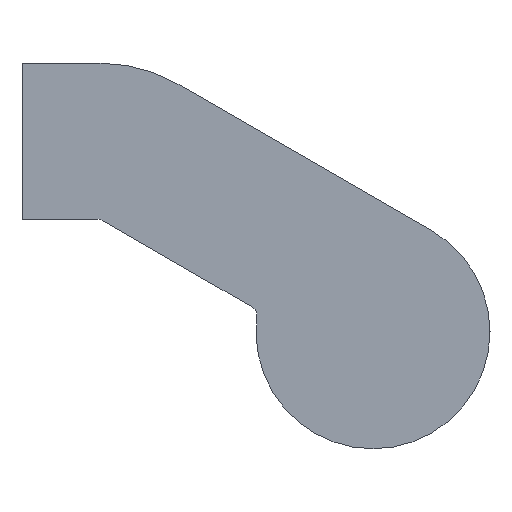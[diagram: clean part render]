
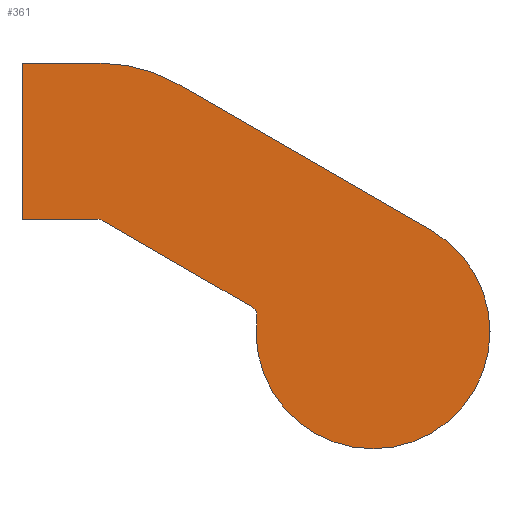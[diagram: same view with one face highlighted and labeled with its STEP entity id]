
A CAD part, left-side view. The second image highlights one B-rep face of the part: STEP entity #361.
In plain terms, the highlighted planar face has unit normal (-1, 0, 0).
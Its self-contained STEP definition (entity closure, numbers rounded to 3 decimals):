
#177 = EDGE_CURVE( '', #197, #431, #476, .T. );
#179 = EDGE_CURVE( '', #279, #291, #478, .T. );
#181 = VERTEX_POINT( '', #480 );
#197 = VERTEX_POINT( '', #498 );
#201 = EDGE_CURVE( '', #233, #197, #502, .T. );
#205 = EDGE_CURVE( '', #431, #181, #506, .T. );
#233 = VERTEX_POINT( '', #537 );
#237 = EDGE_CURVE( '', #181, #377, #542, .T. );
#271 = EDGE_CURVE( '', #349, #281, #580, .T. );
#279 = VERTEX_POINT( '', #589 );
#281 = VERTEX_POINT( '', #591 );
#291 = VERTEX_POINT( '', #603 );
#323 = EDGE_CURVE( '', #281, #279, #639, .T. );
#349 = VERTEX_POINT( '', #667 );
#361 = ADVANCED_FACE( '', ( #679 ), #680, .F. );
#377 = VERTEX_POINT( '', #697 );
#381 = EDGE_CURVE( '', #377, #407, #701, .T. );
#407 = VERTEX_POINT( '', #730 );
#419 = EDGE_CURVE( '', #407, #349, #743, .T. );
#429 = EDGE_CURVE( '', #291, #233, #754, .T. );
#431 = VERTEX_POINT( '', #756 );
#476 = CIRCLE( '', #801, 6. );
#478 = CIRCLE( '', #804, 8. );
#480 = CARTESIAN_POINT( '', ( -255., -11.804, -8.506 ) );
#498 = CARTESIAN_POINT( '', ( -255., -15., -14.97 ) );
#502 = CIRCLE( '', #833, 6. );
#506 = CIRCLE( '', #840, 0.5 );
#537 = CARTESIAN_POINT( '', ( -255., -21., -4.577 ) );
#542 = LINE( '', #885, #886 );
#580 = LINE( '', #935, #936 );
#589 = CARTESIAN_POINT( '', ( -255., -4., 4. ) );
#591 = CARTESIAN_POINT( '', ( -255., 0., 4. ) );
#603 = CARTESIAN_POINT( '', ( -255., -8., 2.928 ) );
#639 = LINE( '', #1010, #1011 );
#667 = CARTESIAN_POINT( '', ( -255., 0., -4. ) );
#679 = FACE_OUTER_BOUND( '', #1065, .T. );
#680 = PLANE( '', #1066 );
#697 = CARTESIAN_POINT( '', ( -255., -4.116, -4.067 ) );
#701 = CIRCLE( '', #1097, 0.5 );
#730 = CARTESIAN_POINT( '', ( -255., -3.866, -4. ) );
#743 = LINE( '', #1154, #1155 );
#754 = LINE( '', #1170, #1171 );
#756 = CARTESIAN_POINT( '', ( -255., -12.05, -9.003 ) );
#801 = AXIS2_PLACEMENT_3D( '', #1214, #1215, #1216 );
#804 = AXIS2_PLACEMENT_3D( '', #1217, #1218, #1219 );
#833 = AXIS2_PLACEMENT_3D( '', #1243, #1244, #1245 );
#840 = AXIS2_PLACEMENT_3D( '', #1247, #1248, #1249 );
#885 = CARTESIAN_POINT( '', ( -255., -11.804, -8.506 ) );
#886 = VECTOR( '', #1296, 1. );
#935 = CARTESIAN_POINT( '', ( -255., 0., -4. ) );
#936 = VECTOR( '', #1340, 1. );
#1010 = CARTESIAN_POINT( '', ( -255., 0., 4. ) );
#1011 = VECTOR( '', #1425, 1. );
#1065 = EDGE_LOOP( '', ( #1460, #1461, #1462, #1463, #1464, #1465, #1466, #1467, #1468, #1469 ) );
#1066 = AXIS2_PLACEMENT_3D( '', #1470, #1471, #1472 );
#1097 = AXIS2_PLACEMENT_3D( '', #1491, #1492, #1493 );
#1154 = CARTESIAN_POINT( '', ( -255., -3.866, -4. ) );
#1155 = VECTOR( '', #1539, 1. );
#1170 = CARTESIAN_POINT( '', ( -255., -8., 2.928 ) );
#1171 = VECTOR( '', #1552, 1. );
#1214 = CARTESIAN_POINT( '', ( -255., -18., -9.774 ) );
#1215 = DIRECTION( '', ( 1., 0., 0. ) );
#1216 = DIRECTION( '', ( 0., -0.5, 0.866 ) );
#1217 = CARTESIAN_POINT( '', ( -255., -4., -4. ) );
#1218 = DIRECTION( '', ( 1., 0., 0. ) );
#1219 = DIRECTION( '', ( 0., 0., 1. ) );
#1243 = CARTESIAN_POINT( '', ( -255., -18., -9.774 ) );
#1244 = DIRECTION( '', ( 1., 0., 0. ) );
#1245 = DIRECTION( '', ( 0., -0.5, 0.866 ) );
#1247 = CARTESIAN_POINT( '', ( -255., -11.554, -8.939 ) );
#1248 = DIRECTION( '', ( -1., 0., 0. ) );
#1249 = DIRECTION( '', ( 0., -0.992, -0.128 ) );
#1296 = DIRECTION( '', ( 0., 0.866, 0.5 ) );
#1340 = DIRECTION( '', ( 0., 0., 1. ) );
#1425 = DIRECTION( '', ( 0., -1., 0. ) );
#1460 = ORIENTED_EDGE( '', *, *, #179, .F. );
#1461 = ORIENTED_EDGE( '', *, *, #323, .F. );
#1462 = ORIENTED_EDGE( '', *, *, #271, .F. );
#1463 = ORIENTED_EDGE( '', *, *, #419, .F. );
#1464 = ORIENTED_EDGE( '', *, *, #381, .F. );
#1465 = ORIENTED_EDGE( '', *, *, #237, .F. );
#1466 = ORIENTED_EDGE( '', *, *, #205, .F. );
#1467 = ORIENTED_EDGE( '', *, *, #177, .F. );
#1468 = ORIENTED_EDGE( '', *, *, #201, .F. );
#1469 = ORIENTED_EDGE( '', *, *, #429, .F. );
#1470 = CARTESIAN_POINT( '', ( -255., 0., 0. ) );
#1471 = DIRECTION( '', ( 1., 0., 0. ) );
#1472 = DIRECTION( '', ( 0., 0., -1. ) );
#1491 = CARTESIAN_POINT( '', ( -255., -3.866, -4.5 ) );
#1492 = DIRECTION( '', ( -1., 0., 0. ) );
#1493 = DIRECTION( '', ( 0., -0.5, 0.866 ) );
#1539 = DIRECTION( '', ( 0., 1., 0. ) );
#1552 = DIRECTION( '', ( 0., -0.866, -0.5 ) );
